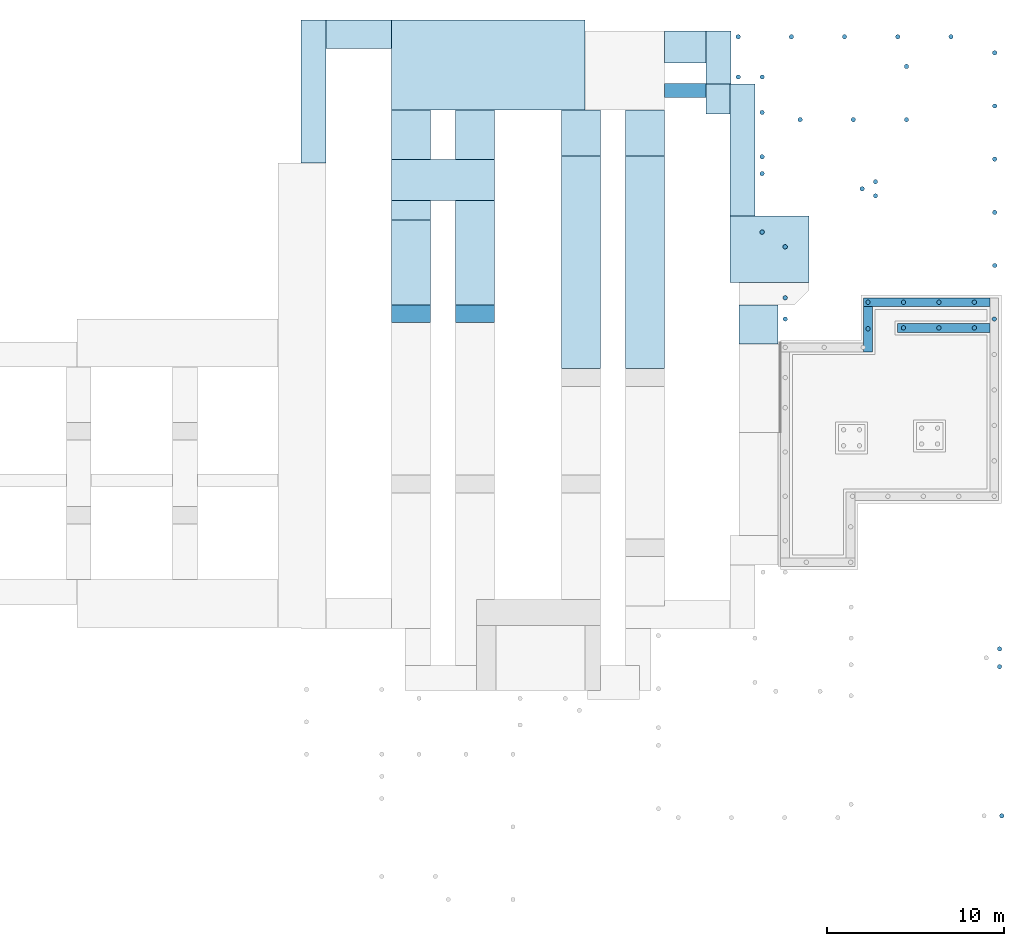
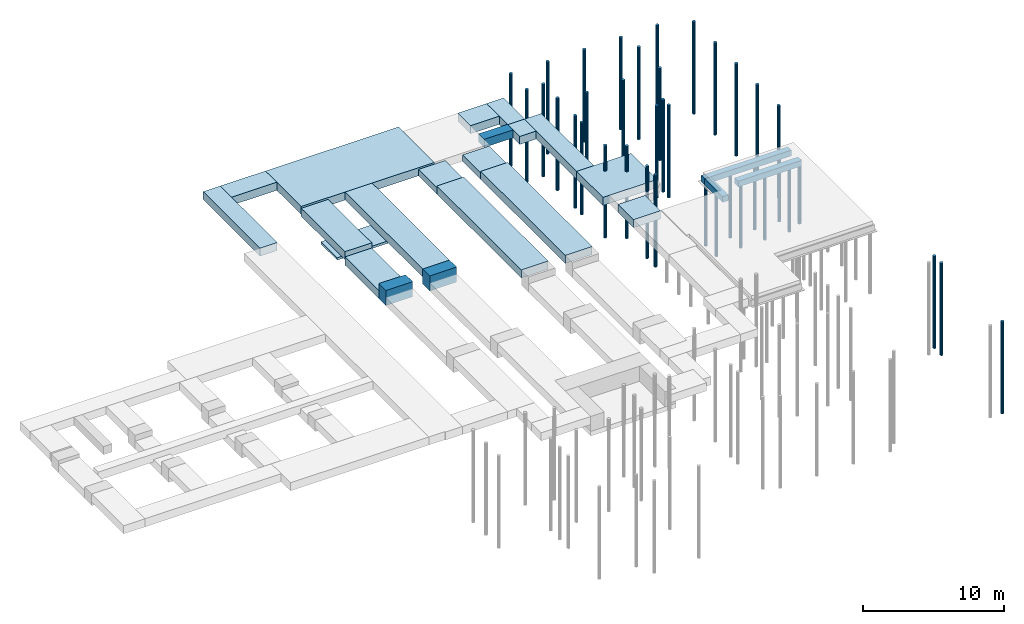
# One storey, part 3 of 4: 61 footings.
"""IFC4 building model written with IfcOpenShell, lengths in metres."""

from ifc_helpers import new_model, entity, si_unit, converted_unit, derived_unit, frame, frame_2d, origin, place, context, subcontext, project, spatial, rectangle, circle, extrude, material, element, save


model = new_model("IFC4")

# Units and contexts
model_context = context("Model", 3, precision=1e-05, world=origin())
body_context = subcontext(model_context, "Body", "Model", "MODEL_VIEW")
ifc_project = project(units=[si_unit("LENGTHUNIT", "METRE"), si_unit("AREAUNIT", "SQUARE_METRE"), si_unit("VOLUMEUNIT", "CUBIC_METRE"), si_unit("MASSUNIT", "GRAM", prefix="KILO"), converted_unit("PLANEANGLEUNIT", "DEGREE", entity("IfcPlaneAngleMeasure", 0.0174532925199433), si_unit("PLANEANGLEUNIT", "RADIAN"), dimensions=[0, 0, 0, 0, 0, 0, 0]), derived_unit("THERMALTRANSMITTANCEUNIT", [(si_unit("POWERUNIT", "WATT"), 1), (si_unit("THERMODYNAMICTEMPERATUREUNIT", "KELVIN"), -1), (si_unit("LENGTHUNIT", "METRE"), -2)]), derived_unit("VOLUMETRICFLOWRATEUNIT", [(si_unit("LENGTHUNIT", "METRE"), 3), (converted_unit("TIMEUNIT", "hour", entity("IfcTimeMeasure", 3600.0), si_unit("TIMEUNIT", "SECOND"), dimensions=[0, 0, 1, 0, 0, 0, 0]), -1), (si_unit("LENGTHUNIT", "METRE"), -1)])], contexts=[model_context])

# Site, building, storey
site_placement = place(None, origin())
site = spatial("IfcSite", under=ifc_project, at=site_placement, Name="3. ASŘ", CompositionType="ELEMENT")
building_placement = place(site_placement, origin())
building = spatial("IfcBuilding", under=site, at=building_placement, Name="Pavilon C", CompositionType="ELEMENT")
storey_placement = place(building_placement, frame((0.0, 0.0, -4.4)))
storey = spatial("IfcBuildingStorey", under=building, at=storey_placement, Name="Základy", CompositionType="ELEMENT", Elevation=-4.4)

# Footings
footing_1_placement = place(storey_placement, frame((48.75, 29.75, 0.0), z_axis=(0.0, 0.0, 1.0), x_axis=(-1.0, 0.0, 0.0)))
element("IfcFooting", 1, at=footing_1_placement, inside=storey, PredefinedType="STRIP_FOOTING", context=body_context, shape_type="SweptSolid", body=[
    extrude(rectangle(XDim=1.695, YDim=0.7, at=frame_2d((0.8475, 0.35), x_axis=(1.0, 0.0))), frame((0.0, 0.0, 0.0), z_axis=(1.0, 0.0, 0.0), x_axis=(0.0, 1.0, 0.0)), (0.0, 0.0, 1.0), 1.35),
])
footing_2_placement = place(storey_placement, frame((48.8, 29.75, 0.0), z_axis=(0.0, 0.0, 1.0), x_axis=(0.0, 1.0, 0.0)))
element("IfcFooting", 2, at=footing_2_placement, inside=storey, PredefinedType="STRIP_FOOTING", context=body_context, shape_type="SweptSolid", body=[
    extrude(rectangle(XDim=1.4, YDim=0.7, at=frame_2d((0.7, 0.35), x_axis=(1.0, 0.0))), frame((0.0, 0.0, 0.0), z_axis=(1.0, 0.0, 0.0), x_axis=(0.0, 1.0, 0.0)), (0.0, 0.0, 1.0), 3.0),
])
footing_3_placement = place(storey_placement, frame((47.4, 29.8, 0.0), z_axis=(0.0, 0.0, 1.0), x_axis=(-1.0, 0.0, 0.0)))
element("IfcFooting", 3, at=footing_3_placement, inside=storey, PredefinedType="STRIP_FOOTING", context=body_context, shape_type="SweptSolid", body=[
    extrude(rectangle(XDim=0.8, YDim=0.7, at=frame_2d((0.4, 0.35), x_axis=(1.0, 0.0))), frame((0.0, 0.0, 0.0), z_axis=(1.0, 0.0, 0.0), x_axis=(0.0, 1.0, 0.0)), (0.0, 0.0, 1.0), 2.35005),
])
footing_4_placement = place(storey_placement, frame((42.85, 25.7, 0.0), z_axis=(0.0, 0.0, 1.0), x_axis=(0.0, -1.0, 0.0)))
element("IfcFooting", 4, at=footing_4_placement, inside=storey, PredefinedType="STRIP_FOOTING", context=body_context, shape_type="SweptSolid", body=[
    extrude(rectangle(XDim=2.2, YDim=0.7, at=frame_2d((1.1, 0.35), x_axis=(1.0, 0.0))), frame((0.0, 0.0, 0.0), z_axis=(1.0, 0.0, 0.0), x_axis=(0.0, 1.0, 0.0)), (0.0, 0.0, 1.0), 12.0),
])
footing_5_placement = place(storey_placement, frame((29.6498372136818, 28.3, -0.15), z_axis=(0.0, 0.0, 1.0), x_axis=(0.0, -1.0, 0.0)))
element("IfcFooting", 5, at=footing_5_placement, inside=storey, PredefinedType="STRIP_FOOTING", context=body_context, shape_type="SweptSolid", body=[
    extrude(rectangle(XDim=2.2, YDim=0.7, at=frame_2d((1.1, 0.35), x_axis=(1.0, 0.0))), frame((0.0, 0.0, 0.0), z_axis=(1.0, 0.0, 0.0), x_axis=(0.0, 1.0, 0.0)), (0.0, 0.0, 1.0), 6.2),
])
footing_6_placement = place(storey_placement, frame((39.25, 25.7, 0.0), z_axis=(0.0, 0.0, 1.0), x_axis=(0.0, -1.0, 0.0)))
element("IfcFooting", 6, at=footing_6_placement, inside=storey, PredefinedType="STRIP_FOOTING", context=body_context, shape_type="SweptSolid", body=[
    extrude(rectangle(XDim=2.2, YDim=0.7, at=frame_2d((1.1, 0.35), x_axis=(1.0, 0.0))), frame((0.0, 0.0, 0.0), z_axis=(1.0, 0.0, 0.0), x_axis=(0.0, 1.0, 0.0)), (0.0, 0.0, 1.0), 12.0),
])
for number, where, z_axis, x_axis in (
    (7, (39.25, 28.3, 0.0), (0.0, 0.0, 1.0), (0.0, -1.0, 0.0)),
    (8, (42.85, 28.3, 0.0), (0.0, 0.0, 1.0), (0.0, -1.0, 0.0)),
):
    element("IfcFooting", number, at=place(storey_placement, frame(where, z_axis=z_axis, x_axis=x_axis)), inside=storey, PredefinedType="STRIP_FOOTING", context=body_context, shape_type="SweptSolid", body=[
        extrude(rectangle(XDim=2.2, YDim=0.55, at=frame_2d((1.1, 0.275), x_axis=(1.0, 0.0))), frame((0.0, 0.0, 0.0), z_axis=(1.0, 0.0, 0.0), x_axis=(0.0, 1.0, 0.0)), (0.0, 0.0, 1.0), 2.59999999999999),
    ])
footing_7_placement = place(storey_placement, frame((47.4, 32.75, 0.0), z_axis=(0.0, 0.0, 1.0), x_axis=(-1.0, 0.0, 0.0)))
element("IfcFooting", 9, at=footing_7_placement, inside=storey, PredefinedType="STRIP_FOOTING", context=body_context, shape_type="SweptSolid", body=[
    extrude(rectangle(XDim=1.8, YDim=0.7, at=frame_2d((0.9, 0.35), x_axis=(1.0, 0.0))), frame((0.0, 0.0, 0.0), z_axis=(1.0, 0.0, 0.0), x_axis=(0.0, 1.0, 0.0)), (0.0, 0.0, 1.0), 2.35),
])
footing_8_placement = place(storey_placement, frame((40.55, 33.37, 0.0), z_axis=(0.0, 0.0, 1.0), x_axis=(-1.0, 6.67509078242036e-16, 0.0)))
element("IfcFooting", 10, at=footing_8_placement, inside=storey, PredefinedType="STRIP_FOOTING", context=body_context, shape_type="SweptSolid", body=[
    extrude(rectangle(XDim=5.07, YDim=0.7, at=frame_2d((2.535, 0.35), x_axis=(1.0, 0.0))), frame((0.0, 0.0, 0.0), z_axis=(1.0, 0.0, 0.0), x_axis=(0.0, 1.0, 0.0)), (0.0, 0.0, 1.0), 10.9001627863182),
])
footing_9_placement = place(storey_placement, frame((53.195, 18.57, 0.0), z_axis=(0.0, 0.0, 1.0), x_axis=(0.0, 1.0, 0.0)))
element("IfcFooting", 11, at=footing_9_placement, inside=storey, PredefinedType="STRIP_FOOTING", context=body_context, shape_type="SweptSolid", body=[
    extrude(rectangle(XDim=4.445, YDim=0.7, at=frame_2d((2.2225, 0.35), x_axis=(1.0, 0.0))), frame((0.0, 0.0, 0.0), z_axis=(1.0, 0.0, 0.0), x_axis=(0.0, 1.0, 0.0)), (0.0, 0.0, 1.0), 3.73),
])
footing_10_placement = place(storey_placement, frame((50.15, 22.3, 0.0), z_axis=(0.0, 0.0, 1.0), x_axis=(0.0, 1.0, 0.0)))
element("IfcFooting", 12, at=footing_10_placement, inside=storey, PredefinedType="STRIP_FOOTING", context=body_context, shape_type="SweptSolid", body=[
    extrude(rectangle(XDim=1.4, YDim=0.7, at=frame_2d((0.7, 0.35), x_axis=(1.0, 0.0))), frame((0.0, 0.0, 0.0), z_axis=(1.0, 0.0, 0.0), x_axis=(0.0, 1.0, 0.0)), (0.0, 0.0, 1.0), 7.45),
])
footing_11_placement = place(storey_placement, frame((31.8498372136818, 17.3, -0.6), z_axis=(0.0, 0.0, 1.0), x_axis=(0.0, 1.0, 0.0)))
element("IfcFooting", 13, at=footing_11_placement, inside=storey, PredefinedType="STRIP_FOOTING", context=body_context, shape_type="SweptSolid", body=[
    extrude(rectangle(XDim=2.2, YDim=0.7, at=frame_2d((1.1, 0.35), x_axis=(1.0, 0.0))), frame((0.0, 0.0, 0.0), z_axis=(1.0, 0.0, 0.0), x_axis=(0.0, 1.0, 0.0)), (0.0, 0.0, 1.0), 4.8),
])
footing_12_placement = place(storey_placement, frame((35.4498372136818, 17.3, 0.0), z_axis=(0.0, 0.0, 1.0), x_axis=(0.0, 1.0, 0.0)))
element("IfcFooting", 14, at=footing_12_placement, inside=storey, PredefinedType="STRIP_FOOTING", context=body_context, shape_type="SweptSolid", body=[
    extrude(rectangle(XDim=2.2, YDim=0.7, at=frame_2d((1.1, 0.35), x_axis=(1.0, 0.0))), frame((0.0, 0.0, 0.0), z_axis=(1.0, 0.0, 0.0), x_axis=(0.0, 1.0, 0.0)), (0.0, 0.0, 1.0), 11.0),
])
footing_13_placement = place(storey_placement, frame((35.4498372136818, 16.3, -0.6), z_axis=(0.0, 0.0, 1.0), x_axis=(0.0, 1.0, 0.0)))
element("IfcFooting", 15, at=footing_13_placement, inside=storey, PredefinedType="STRIP_FOOTING", context=body_context, shape_type="SweptSolid", body=[
    extrude(rectangle(XDim=2.19999998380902, YDim=1.3, at=frame_2d((1.09999999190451, 0.65), x_axis=(1.0, 0.0))), frame((0.0, 0.0, 0.0), z_axis=(1.0, 0.0, 0.0), x_axis=(0.0, 1.0, 0.0)), (0.0, 0.0, 1.0), 1.0),
])
footing_14_placement = place(storey_placement, frame((35.4498372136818, 25.5, -0.85), z_axis=(0.0, 0.0, 1.0), x_axis=(-1.0, 0.0, 0.0)))
element("IfcFooting", 16, at=footing_14_placement, inside=storey, PredefinedType="STRIP_FOOTING", context=body_context, shape_type="SweptSolid", body=[
    extrude(rectangle(XDim=2.3, YDim=0.2, at=frame_2d((1.15, 0.1), x_axis=(1.0, 0.0))), frame((0.0, 0.0, 0.0), z_axis=(1.0, 0.0, 0.0), x_axis=(0.0, 1.0, 0.0)), (0.0, 0.0, 1.0), 5.80000000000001),
])
footing_15_placement = place(storey_placement, frame((29.6498372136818, 33.37, 0.0), z_axis=(0.0, 0.0, 1.0), x_axis=(-1.0, 0.0, 0.0)))
element("IfcFooting", 17, at=footing_15_placement, inside=storey, PredefinedType="STRIP_FOOTING", context=body_context, shape_type="SweptSolid", body=[
    extrude(rectangle(XDim=1.6, YDim=0.7, at=frame_2d((0.8, 0.35), x_axis=(1.0, 0.0))), frame((0.0, 0.0, 0.0), z_axis=(1.0, 0.0, 0.0), x_axis=(0.0, 1.0, 0.0)), (0.0, 0.0, 1.0), 3.69983721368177),
])
footing_16_placement = place(storey_placement, frame((24.55, 33.37, 0.0), z_axis=(0.0, 0.0, 1.0), x_axis=(-4.50802826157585e-16, -1.0, 0.0)))
element("IfcFooting", 18, at=footing_16_placement, inside=storey, PredefinedType="STRIP_FOOTING", context=body_context, shape_type="SweptSolid", body=[
    extrude(rectangle(XDim=1.4, YDim=0.7, at=frame_2d((0.7, 0.35), x_axis=(1.0, 0.0))), frame((0.0, 0.0, 0.0), z_axis=(1.0, 0.0, 0.0), x_axis=(0.0, 1.0, 0.0)), (0.0, 0.0, 1.0), 8.07),
])
footing_17_placement = place(storey_placement, frame((31.8498372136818, 16.3, -0.6), z_axis=(0.0, 0.0, 1.0), x_axis=(0.0, 1.0, 0.0)))
element("IfcFooting", 19, at=footing_17_placement, inside=storey, PredefinedType="STRIP_FOOTING", context=body_context, shape_type="SweptSolid", body=[
    extrude(rectangle(XDim=2.19999998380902, YDim=1.3, at=frame_2d((1.09999999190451, 0.65), x_axis=(1.0, 0.0))), frame((0.0, 0.0, 0.0), z_axis=(1.0, 0.0, 0.0), x_axis=(0.0, 1.0, 0.0)), (0.0, 0.0, 1.0), 1.0),
])
footing_18_placement = place(storey_placement, frame((51.45, 15.1, 0.0), z_axis=(0.0, 0.0, 1.0), x_axis=(0.0, 1.0, 0.0)))
element("IfcFooting", 20, at=footing_18_placement, inside=storey, PredefinedType="STRIP_FOOTING", context=body_context, shape_type="SweptSolid", body=[
    extrude(rectangle(XDim=2.2, YDim=0.7, at=frame_2d((1.1, 0.35), x_axis=(1.0, 0.0))), frame((0.0, 0.0, 0.0), z_axis=(1.0, 0.0, 0.0), x_axis=(0.0, 1.0, 0.0)), (0.0, 0.0, 1.0), 2.2),
])
ifc_material_1 = material(Name="ZELEZOBETONOVÁ KCE")
footing_19_placement = place(storey_placement, frame((63.4, 17.7, 0.0), z_axis=(0.0, 0.0, 1.0), x_axis=(-1.0, 0.0, 0.0)))
element("IfcFooting", 21, at=footing_19_placement, inside=storey, material=ifc_material_1, PredefinedType="STRIP_FOOTING", context=body_context, shape_type="SweptSolid", body=[
    extrude(rectangle(XDim=0.5, YDim=0.5, at=frame_2d((0.25, 0.25), x_axis=(1.0, 0.0))), frame((0.0, 0.0, 0.0), z_axis=(1.0, 0.0, 0.0), x_axis=(0.0, 1.0, 0.0)), (0.0, 0.0, 1.0), 7.12111169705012),
])
ifc_material_2 = material(Name="ZELEZOBETONOVÁ KCE")
footing_20_placement = place(storey_placement, frame((56.2788883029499, 17.2, 0.0), z_axis=(0.0, 0.0, 1.0), x_axis=(0.0, -1.0, 0.0)))
element("IfcFooting", 22, at=footing_20_placement, inside=storey, material=ifc_material_2, PredefinedType="STRIP_FOOTING", context=body_context, shape_type="SweptSolid", body=[
    extrude(rectangle(XDim=0.5, YDim=0.5, at=frame_2d((0.25, 0.25), x_axis=(1.0, 0.0))), frame((0.0, 0.0, 0.0), z_axis=(1.0, 0.0, 0.0), x_axis=(0.0, 1.0, 0.0)), (0.0, 0.0, 1.0), 2.54999999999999),
])
ifc_material_3 = material(Name="ZELEZOBETONOVÁ KCE")
footing_21_placement = place(storey_placement, frame((63.4, 16.25, 0.0), z_axis=(0.0, 0.0, 1.0), x_axis=(-1.0, 0.0, 0.0)))
element("IfcFooting", 23, at=footing_21_placement, inside=storey, material=ifc_material_3, PredefinedType="STRIP_FOOTING", context=body_context, shape_type="SweptSolid", body=[
    extrude(rectangle(XDim=0.5, YDim=0.5, at=frame_2d((0.25, 0.25), x_axis=(1.0, 0.0))), frame((0.0, 0.0, 0.0), z_axis=(1.0, 0.0, 0.0), x_axis=(0.0, 1.0, 0.0)), (0.0, 0.0, 1.0), 5.2),
])
ifc_material_4 = material(Name="ZELEZOBETONOVÁ KCE")
footing_22_placement = place(storey_placement, frame((63.5255159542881, 16.3755159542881, -5.5)))
element("IfcFooting", 24, at=footing_22_placement, inside=storey, material=ifc_material_4, Name="MIKROPILOTA MP2", PredefinedType="PAD_FOOTING", context=body_context, shape_type="SweptSolid", body=[
    extrude(circle(Radius=0.124999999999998, at=frame_2d((0.124999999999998, 0.124999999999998), x_axis=(1.0, 0.0))), frame((-0.000515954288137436, -0.000515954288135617, 0.0), z_axis=(0.0, 0.0, 1.0), x_axis=(1.0, 0.0, 0.0)), (0.0, 0.0, 1.0), 5.5),
])
ifc_material_5 = material(Name="ZELEZOBETONOVÁ KCE")
footing_23_placement = place(storey_placement, frame((62.404404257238, 17.3255159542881, -5.5)))
element("IfcFooting", 25, at=footing_23_placement, inside=storey, material=ifc_material_5, Name="MIKROPILOTA MP2", PredefinedType="PAD_FOOTING", context=body_context, shape_type="SweptSolid", body=[
    extrude(circle(Radius=0.124999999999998, at=frame_2d((0.124999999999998, 0.124999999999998), x_axis=(1.0, 0.0))), frame((-0.000515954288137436, -0.000515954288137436, 0.0), z_axis=(0.0, 0.0, 1.0), x_axis=(1.0, 0.0, 0.0)), (0.0, 0.0, 1.0), 5.5),
])
ifc_material_6 = material(Name="ZELEZOBETONOVÁ KCE")
footing_24_placement = place(storey_placement, frame((62.404404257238, 15.8755159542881, -5.5)))
element("IfcFooting", 26, at=footing_24_placement, inside=storey, material=ifc_material_6, Name="MIKROPILOTA MP2", PredefinedType="PAD_FOOTING", context=body_context, shape_type="SweptSolid", body=[
    extrude(circle(Radius=0.124999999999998, at=frame_2d((0.124999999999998, 0.124999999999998), x_axis=(1.0, 0.0))), frame((-0.000515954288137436, -0.000515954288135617, 0.0), z_axis=(0.0, 0.0, 1.0), x_axis=(1.0, 0.0, 0.0)), (0.0, 0.0, 1.0), 5.5),
])
ifc_material_7 = material(Name="ZELEZOBETONOVÁ KCE")
footing_25_placement = place(storey_placement, frame((60.404404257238, 15.8755159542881, -5.5)))
element("IfcFooting", 27, at=footing_25_placement, inside=storey, material=ifc_material_7, Name="MIKROPILOTA MP2", PredefinedType="PAD_FOOTING", context=body_context, shape_type="SweptSolid", body=[
    extrude(circle(Radius=0.124999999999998, at=frame_2d((0.124999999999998, 0.124999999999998), x_axis=(1.0, 0.0))), frame((-0.000515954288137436, -0.000515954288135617, 0.0), z_axis=(0.0, 0.0, 1.0), x_axis=(1.0, 0.0, 0.0)), (0.0, 0.0, 1.0), 5.5),
])
ifc_material_8 = material(Name="ZELEZOBETONOVÁ KCE")
footing_26_placement = place(storey_placement, frame((60.404404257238, 17.3255159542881, -5.5)))
element("IfcFooting", 28, at=footing_26_placement, inside=storey, material=ifc_material_8, Name="MIKROPILOTA MP2", PredefinedType="PAD_FOOTING", context=body_context, shape_type="SweptSolid", body=[
    extrude(circle(Radius=0.124999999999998, at=frame_2d((0.124999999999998, 0.124999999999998), x_axis=(1.0, 0.0))), frame((-0.000515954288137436, -0.000515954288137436, 0.0), z_axis=(0.0, 0.0, 1.0), x_axis=(1.0, 0.0, 0.0)), (0.0, 0.0, 1.0), 5.5),
])
ifc_material_9 = material(Name="ZELEZOBETONOVÁ KCE")
footing_27_placement = place(storey_placement, frame((58.404404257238, 15.8755159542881, -5.5)))
element("IfcFooting", 29, at=footing_27_placement, inside=storey, material=ifc_material_9, Name="MIKROPILOTA MP2", PredefinedType="PAD_FOOTING", context=body_context, shape_type="SweptSolid", body=[
    extrude(circle(Radius=0.124999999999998, at=frame_2d((0.124999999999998, 0.124999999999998), x_axis=(1.0, 0.0))), frame((-0.000515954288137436, -0.000515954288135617, 0.0), z_axis=(0.0, 0.0, 1.0), x_axis=(1.0, 0.0, 0.0)), (0.0, 0.0, 1.0), 5.5),
])
ifc_material_10 = material(Name="ZELEZOBETONOVÁ KCE")
footing_28_placement = place(storey_placement, frame((58.404404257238, 17.3255159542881, -5.5)))
element("IfcFooting", 30, at=footing_28_placement, inside=storey, material=ifc_material_10, Name="MIKROPILOTA MP2", PredefinedType="PAD_FOOTING", context=body_context, shape_type="SweptSolid", body=[
    extrude(circle(Radius=0.124999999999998, at=frame_2d((0.124999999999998, 0.124999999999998), x_axis=(1.0, 0.0))), frame((-0.000515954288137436, -0.000515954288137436, 0.0), z_axis=(0.0, 0.0, 1.0), x_axis=(1.0, 0.0, 0.0)), (0.0, 0.0, 1.0), 5.5),
])
ifc_material_11 = material(Name="ZELEZOBETONOVÁ KCE")
footing_29_placement = place(storey_placement, frame((56.404404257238, 15.8255159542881, -5.5)))
element("IfcFooting", 31, at=footing_29_placement, inside=storey, material=ifc_material_11, Name="MIKROPILOTA MP2", PredefinedType="PAD_FOOTING", context=body_context, shape_type="SweptSolid", body=[
    extrude(circle(Radius=0.124999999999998, at=frame_2d((0.124999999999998, 0.124999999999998), x_axis=(1.0, 0.0))), frame((-0.000515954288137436, -0.000515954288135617, 0.0), z_axis=(0.0, 0.0, 1.0), x_axis=(1.0, 0.0, 0.0)), (0.0, 0.0, 1.0), 5.5),
])
ifc_material_12 = material(Name="ZELEZOBETONOVÁ KCE")
footing_30_placement = place(storey_placement, frame((56.404404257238, 17.3255159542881, -5.5)))
element("IfcFooting", 32, at=footing_30_placement, inside=storey, material=ifc_material_12, Name="MIKROPILOTA MP2", PredefinedType="PAD_FOOTING", context=body_context, shape_type="SweptSolid", body=[
    extrude(circle(Radius=0.124999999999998, at=frame_2d((0.124999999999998, 0.124999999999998), x_axis=(1.0, 0.0))), frame((-0.000515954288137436, -0.000515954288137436, 0.0), z_axis=(0.0, 0.0, 1.0), x_axis=(1.0, 0.0, 0.0)), (0.0, 0.0, 1.0), 5.5),
])
ifc_material_13 = material(Name="ZELEZOBETONOVÁ KCE")
footing_31_placement = place(storey_placement, frame((49.0805159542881, 32.3005159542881, -5.1)))
element("IfcFooting", 33, at=footing_31_placement, inside=storey, material=ifc_material_13, Name="MIKROPILOTA MP1", PredefinedType="PAD_FOOTING", context=body_context, shape_type="SweptSolid", body=[
    extrude(circle(Radius=0.124999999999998, at=frame_2d((0.124999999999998, 0.124999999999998), x_axis=(1.0, 0.0))), frame((-0.000515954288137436, -0.000515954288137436, 0.0), z_axis=(0.0, 0.0, 1.0), x_axis=(1.0, 0.0, 0.0)), (0.0, 0.0, 1.0), 8.0),
])
ifc_material_14 = material(Name="ZELEZOBETONOVÁ KCE")
footing_32_placement = place(storey_placement, frame((52.0805159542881, 32.3005159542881, -5.1)))
element("IfcFooting", 34, at=footing_32_placement, inside=storey, material=ifc_material_14, Name="MIKROPILOTA MP1", PredefinedType="PAD_FOOTING", context=body_context, shape_type="SweptSolid", body=[
    extrude(circle(Radius=0.124999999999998, at=frame_2d((0.124999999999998, 0.124999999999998), x_axis=(1.0, 0.0))), frame((-0.000515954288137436, -0.000515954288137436, 0.0), z_axis=(0.0, 0.0, 1.0), x_axis=(1.0, 0.0, 0.0)), (0.0, 0.0, 1.0), 8.0),
])
ifc_material_15 = material(Name="ZELEZOBETONOVÁ KCE")
footing_33_placement = place(storey_placement, frame((55.0805159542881, 32.3005159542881, -5.1)))
element("IfcFooting", 35, at=footing_33_placement, inside=storey, material=ifc_material_15, Name="MIKROPILOTA MP1", PredefinedType="PAD_FOOTING", context=body_context, shape_type="SweptSolid", body=[
    extrude(circle(Radius=0.124999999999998, at=frame_2d((0.124999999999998, 0.124999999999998), x_axis=(1.0, 0.0))), frame((-0.000515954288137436, -0.000515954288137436, 0.0), z_axis=(0.0, 0.0, 1.0), x_axis=(1.0, 0.0, 0.0)), (0.0, 0.0, 1.0), 8.0),
])
ifc_material_16 = material(Name="ZELEZOBETONOVÁ KCE")
footing_34_placement = place(storey_placement, frame((61.0805159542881, 32.3005159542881, -5.1)))
element("IfcFooting", 36, at=footing_34_placement, inside=storey, material=ifc_material_16, Name="MIKROPILOTA MP1", PredefinedType="PAD_FOOTING", context=body_context, shape_type="SweptSolid", body=[
    extrude(circle(Radius=0.124999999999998, at=frame_2d((0.124999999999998, 0.124999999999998), x_axis=(1.0, 0.0))), frame((-0.000515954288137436, -0.000515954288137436, 0.0), z_axis=(0.0, 0.0, 1.0), x_axis=(1.0, 0.0, 0.0)), (0.0, 0.0, 1.0), 8.0),
])
ifc_material_17 = material(Name="ZELEZOBETONOVÁ KCE")
footing_35_placement = place(storey_placement, frame((58.0805159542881, 32.3005159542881, -5.1)))
element("IfcFooting", 37, at=footing_35_placement, inside=storey, material=ifc_material_17, Name="MIKROPILOTA MP1", PredefinedType="PAD_FOOTING", context=body_context, shape_type="SweptSolid", body=[
    extrude(circle(Radius=0.124999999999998, at=frame_2d((0.124999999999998, 0.124999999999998), x_axis=(1.0, 0.0))), frame((-0.000515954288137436, -0.000515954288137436, 0.0), z_axis=(0.0, 0.0, 1.0), x_axis=(1.0, 0.0, 0.0)), (0.0, 0.0, 1.0), 8.0),
])
ifc_material_18 = material(Name="ZELEZOBETONOVÁ KCE")
footing_36_placement = place(storey_placement, frame((49.0805159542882, 30.0305159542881, -5.1)))
element("IfcFooting", 38, at=footing_36_placement, inside=storey, material=ifc_material_18, Name="MIKROPILOTA MP1", PredefinedType="PAD_FOOTING", context=body_context, shape_type="SweptSolid", body=[
    extrude(circle(Radius=0.124999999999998, at=frame_2d((0.124999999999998, 0.124999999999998), x_axis=(1.0, 0.0))), frame((-0.000515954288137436, -0.000515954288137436, 0.0), z_axis=(0.0, 0.0, 1.0), x_axis=(1.0, 0.0, 0.0)), (0.0, 0.0, 1.0), 8.0),
])
ifc_material_19 = material(Name="ZELEZOBETONOVÁ KCE")
footing_37_placement = place(storey_placement, frame((50.4305159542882, 30.0305159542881, -5.1)))
element("IfcFooting", 39, at=footing_37_placement, inside=storey, material=ifc_material_19, Name="MIKROPILOTA MP1", PredefinedType="PAD_FOOTING", context=body_context, shape_type="SweptSolid", body=[
    extrude(circle(Radius=0.124999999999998, at=frame_2d((0.124999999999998, 0.124999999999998), x_axis=(1.0, 0.0))), frame((-0.000515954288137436, -0.000515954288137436, 0.0), z_axis=(0.0, 0.0, 1.0), x_axis=(1.0, 0.0, 0.0)), (0.0, 0.0, 1.0), 8.0),
])
ifc_material_20 = material(Name="ZELEZOBETONOVÁ KCE")
footing_38_placement = place(storey_placement, frame((50.4305159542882, 28.0305159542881, -5.1)))
element("IfcFooting", 40, at=footing_38_placement, inside=storey, material=ifc_material_20, Name="MIKROPILOTA MP1", PredefinedType="PAD_FOOTING", context=body_context, shape_type="SweptSolid", body=[
    extrude(circle(Radius=0.124999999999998, at=frame_2d((0.124999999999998, 0.124999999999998), x_axis=(1.0, 0.0))), frame((-0.000515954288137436, -0.000515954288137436, 0.0), z_axis=(0.0, 0.0, 1.0), x_axis=(1.0, 0.0, 0.0)), (0.0, 0.0, 1.0), 8.0),
])
ifc_material_21 = material(Name="ZELEZOBETONOVÁ KCE")
footing_39_placement = place(storey_placement, frame((52.5755159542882, 27.6255159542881, -5.1)))
element("IfcFooting", 41, at=footing_39_placement, inside=storey, material=ifc_material_21, Name="MIKROPILOTA MP1", PredefinedType="PAD_FOOTING", context=body_context, shape_type="SweptSolid", body=[
    extrude(circle(Radius=0.124999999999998, at=frame_2d((0.124999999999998, 0.124999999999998), x_axis=(1.0, 0.0))), frame((-0.000515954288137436, -0.000515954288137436, 0.0), z_axis=(0.0, 0.0, 1.0), x_axis=(1.0, 0.0, 0.0)), (0.0, 0.0, 1.0), 8.0),
])
ifc_material_22 = material(Name="ZELEZOBETONOVÁ KCE")
footing_40_placement = place(storey_placement, frame((55.5755159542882, 27.6255159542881, -5.1)))
element("IfcFooting", 42, at=footing_40_placement, inside=storey, material=ifc_material_22, Name="MIKROPILOTA MP1", PredefinedType="PAD_FOOTING", context=body_context, shape_type="SweptSolid", body=[
    extrude(circle(Radius=0.124999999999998, at=frame_2d((0.124999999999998, 0.124999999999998), x_axis=(1.0, 0.0))), frame((-0.000515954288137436, -0.000515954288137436, 0.0), z_axis=(0.0, 0.0, 1.0), x_axis=(1.0, 0.0, 0.0)), (0.0, 0.0, 1.0), 8.0),
])
ifc_material_23 = material(Name="ZELEZOBETONOVÁ KCE")
footing_41_placement = place(storey_placement, frame((58.5755159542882, 27.6255159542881, -5.1)))
element("IfcFooting", 43, at=footing_41_placement, inside=storey, material=ifc_material_23, Name="MIKROPILOTA MP1", PredefinedType="PAD_FOOTING", context=body_context, shape_type="SweptSolid", body=[
    extrude(circle(Radius=0.124999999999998, at=frame_2d((0.124999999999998, 0.124999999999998), x_axis=(1.0, 0.0))), frame((-0.000515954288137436, -0.000515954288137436, 0.0), z_axis=(0.0, 0.0, 1.0), x_axis=(1.0, 0.0, 0.0)), (0.0, 0.0, 1.0), 8.0),
])
ifc_material_24 = material(Name="ZELEZOBETONOVÁ KCE")
footing_42_placement = place(storey_placement, frame((58.5755159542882, 30.6255159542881, -5.1)))
element("IfcFooting", 44, at=footing_42_placement, inside=storey, material=ifc_material_24, Name="MIKROPILOTA MP1", PredefinedType="PAD_FOOTING", context=body_context, shape_type="SweptSolid", body=[
    extrude(circle(Radius=0.124999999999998, at=frame_2d((0.124999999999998, 0.124999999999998), x_axis=(1.0, 0.0))), frame((-0.000515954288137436, -0.000515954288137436, 0.0), z_axis=(0.0, 0.0, 1.0), x_axis=(1.0, 0.0, 0.0)), (0.0, 0.0, 1.0), 8.0),
])
ifc_material_25 = material(Name="ZELEZOBETONOVÁ KCE")
footing_43_placement = place(storey_placement, frame((63.5505159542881, 31.3955159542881, -5.1)))
element("IfcFooting", 45, at=footing_43_placement, inside=storey, material=ifc_material_25, Name="MIKROPILOTA MP1", PredefinedType="PAD_FOOTING", context=body_context, shape_type="SweptSolid", body=[
    extrude(circle(Radius=0.124999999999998, at=frame_2d((0.124999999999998, 0.124999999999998), x_axis=(1.0, 0.0))), frame((-0.000515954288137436, -0.000515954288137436, 0.0), z_axis=(0.0, 0.0, 1.0), x_axis=(1.0, 0.0, 0.0)), (0.0, 0.0, 1.0), 8.0),
])
ifc_material_26 = material(Name="ZELEZOBETONOVÁ KCE")
footing_44_placement = place(storey_placement, frame((63.5505159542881, 28.3955159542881, -5.1)))
element("IfcFooting", 46, at=footing_44_placement, inside=storey, material=ifc_material_26, Name="MIKROPILOTA MP1", PredefinedType="PAD_FOOTING", context=body_context, shape_type="SweptSolid", body=[
    extrude(circle(Radius=0.124999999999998, at=frame_2d((0.124999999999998, 0.124999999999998), x_axis=(1.0, 0.0))), frame((-0.000515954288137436, -0.000515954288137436, 0.0), z_axis=(0.0, 0.0, 1.0), x_axis=(1.0, 0.0, 0.0)), (0.0, 0.0, 1.0), 8.0),
])
ifc_material_27 = material(Name="ZELEZOBETONOVÁ KCE")
footing_45_placement = place(storey_placement, frame((63.5505159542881, 25.3955159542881, -5.1)))
element("IfcFooting", 47, at=footing_45_placement, inside=storey, material=ifc_material_27, Name="MIKROPILOTA MP1", PredefinedType="PAD_FOOTING", context=body_context, shape_type="SweptSolid", body=[
    extrude(circle(Radius=0.124999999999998, at=frame_2d((0.124999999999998, 0.124999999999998), x_axis=(1.0, 0.0))), frame((-0.000515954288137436, -0.000515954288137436, 0.0), z_axis=(0.0, 0.0, 1.0), x_axis=(1.0, 0.0, 0.0)), (0.0, 0.0, 1.0), 8.0),
])
ifc_material_28 = material(Name="ZELEZOBETONOVÁ KCE")
footing_46_placement = place(storey_placement, frame((63.5505159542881, 22.3955159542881, -5.1)))
element("IfcFooting", 48, at=footing_46_placement, inside=storey, material=ifc_material_28, Name="MIKROPILOTA MP1", PredefinedType="PAD_FOOTING", context=body_context, shape_type="SweptSolid", body=[
    extrude(circle(Radius=0.124999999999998, at=frame_2d((0.124999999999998, 0.124999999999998), x_axis=(1.0, 0.0))), frame((-0.000515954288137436, -0.000515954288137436, 0.0), z_axis=(0.0, 0.0, 1.0), x_axis=(1.0, 0.0, 0.0)), (0.0, 0.0, 1.0), 8.0),
])
ifc_material_29 = material(Name="ZELEZOBETONOVÁ KCE")
footing_47_placement = place(storey_placement, frame((63.5505159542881, 19.3955159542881, -5.1)))
element("IfcFooting", 49, at=footing_47_placement, inside=storey, material=ifc_material_29, Name="MIKROPILOTA MP1", PredefinedType="PAD_FOOTING", context=body_context, shape_type="SweptSolid", body=[
    extrude(circle(Radius=0.124999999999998, at=frame_2d((0.124999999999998, 0.124999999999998), x_axis=(1.0, 0.0))), frame((-0.000515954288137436, -0.000515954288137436, 0.0), z_axis=(0.0, 0.0, 1.0), x_axis=(1.0, 0.0, 0.0)), (0.0, 0.0, 1.0), 8.0),
])
ifc_material_30 = material(Name="ZELEZOBETONOVÁ KCE")
footing_48_placement = place(storey_placement, frame((50.4305159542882, 25.5305159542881, -5.1)))
element("IfcFooting", 50, at=footing_48_placement, inside=storey, material=ifc_material_30, Name="MIKROPILOTA MP1", PredefinedType="PAD_FOOTING", context=body_context, shape_type="SweptSolid", body=[
    extrude(circle(Radius=0.124999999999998, at=frame_2d((0.124999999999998, 0.124999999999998), x_axis=(1.0, 0.0))), frame((-0.000515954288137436, -0.000515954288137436, 0.0), z_axis=(0.0, 0.0, 1.0), x_axis=(1.0, 0.0, 0.0)), (0.0, 0.0, 1.0), 8.0),
])
ifc_material_31 = material(Name="ZELEZOBETONOVÁ KCE")
footing_49_placement = place(storey_placement, frame((50.4305159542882, 24.5805159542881, -5.1)))
element("IfcFooting", 51, at=footing_49_placement, inside=storey, material=ifc_material_31, Name="MIKROPILOTA MP1", PredefinedType="PAD_FOOTING", context=body_context, shape_type="SweptSolid", body=[
    extrude(circle(Radius=0.124999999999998, at=frame_2d((0.124999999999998, 0.124999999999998), x_axis=(1.0, 0.0))), frame((-0.000515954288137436, -0.000515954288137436, 0.0), z_axis=(0.0, 0.0, 1.0), x_axis=(1.0, 0.0, 0.0)), (0.0, 0.0, 1.0), 8.0),
])
ifc_material_32 = material(Name="ZELEZOBETONOVÁ KCE")
footing_50_placement = place(storey_placement, frame((56.0755159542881, 23.7255159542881, -5.1)))
element("IfcFooting", 52, at=footing_50_placement, inside=storey, material=ifc_material_32, Name="MIKROPILOTA MP1", PredefinedType="PAD_FOOTING", context=body_context, shape_type="SweptSolid", body=[
    extrude(circle(Radius=0.124999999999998, at=frame_2d((0.124999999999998, 0.124999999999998), x_axis=(1.0, 0.0))), frame((-0.000515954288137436, -0.000515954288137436, 0.0), z_axis=(0.0, 0.0, 1.0), x_axis=(1.0, 0.0, 0.0)), (0.0, 0.0, 1.0), 8.0),
])
ifc_material_33 = material(Name="ZELEZOBETONOVÁ KCE")
footing_51_placement = place(storey_placement, frame((56.8255159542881, 24.1255159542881, -5.1)))
element("IfcFooting", 53, at=footing_51_placement, inside=storey, material=ifc_material_33, Name="MIKROPILOTA MP1", PredefinedType="PAD_FOOTING", context=body_context, shape_type="SweptSolid", body=[
    extrude(circle(Radius=0.124999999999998, at=frame_2d((0.124999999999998, 0.124999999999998), x_axis=(1.0, 0.0))), frame((-0.000515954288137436, -0.000515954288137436, 0.0), z_axis=(0.0, 0.0, 1.0), x_axis=(1.0, 0.0, 0.0)), (0.0, 0.0, 1.0), 8.0),
])
ifc_material_34 = material(Name="ZELEZOBETONOVÁ KCE")
footing_52_placement = place(storey_placement, frame((56.8255159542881, 23.3255159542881, -5.1)))
element("IfcFooting", 54, at=footing_52_placement, inside=storey, material=ifc_material_34, Name="MIKROPILOTA MP1", PredefinedType="PAD_FOOTING", context=body_context, shape_type="SweptSolid", body=[
    extrude(circle(Radius=0.124999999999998, at=frame_2d((0.124999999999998, 0.124999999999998), x_axis=(1.0, 0.0))), frame((-0.000515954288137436, -0.000515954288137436, 0.0), z_axis=(0.0, 0.0, 1.0), x_axis=(1.0, 0.0, 0.0)), (0.0, 0.0, 1.0), 8.0),
])
ifc_material_35 = material(Name="ZELEZOBETONOVÁ KCE")
footing_53_placement = place(storey_placement, frame((50.4305159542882, 21.2805159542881, -5.1)))
element("IfcFooting", 55, at=footing_53_placement, inside=storey, material=ifc_material_35, Name="MIKROPILOTA MP1", PredefinedType="PAD_FOOTING", context=body_context, shape_type="SweptSolid", body=[
    extrude(circle(Radius=0.124999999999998, at=frame_2d((0.124999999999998, 0.124999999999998), x_axis=(1.0, 0.0))), frame((-0.000515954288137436, -0.000515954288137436, 0.0), z_axis=(0.0, 0.0, 1.0), x_axis=(1.0, 0.0, 0.0)), (0.0, 0.0, 1.0), 8.0),
])
ifc_material_36 = material(Name="ZELEZOBETONOVÁ KCE")
footing_54_placement = place(storey_placement, frame((51.7305159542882, 20.4505159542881, -5.1)))
element("IfcFooting", 56, at=footing_54_placement, inside=storey, material=ifc_material_36, Name="MIKROPILOTA MP1", PredefinedType="PAD_FOOTING", context=body_context, shape_type="SweptSolid", body=[
    extrude(circle(Radius=0.124999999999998, at=frame_2d((0.124999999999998, 0.124999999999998), x_axis=(1.0, 0.0))), frame((-0.000515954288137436, -0.000515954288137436, 0.0), z_axis=(0.0, 0.0, 1.0), x_axis=(1.0, 0.0, 0.0)), (0.0, 0.0, 1.0), 8.0),
])
ifc_material_37 = material(Name="ZELEZOBETONOVÁ KCE")
footing_55_placement = place(storey_placement, frame((51.7305159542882, 17.5755159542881, -5.1)))
element("IfcFooting", 57, at=footing_55_placement, inside=storey, material=ifc_material_37, Name="MIKROPILOTA MP1", PredefinedType="PAD_FOOTING", context=body_context, shape_type="SweptSolid", body=[
    extrude(circle(Radius=0.124999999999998, at=frame_2d((0.124999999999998, 0.124999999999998), x_axis=(1.0, 0.0))), frame((-0.000515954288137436, -0.000515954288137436, 0.0), z_axis=(0.0, 0.0, 1.0), x_axis=(1.0, 0.0, 0.0)), (0.0, 0.0, 1.0), 8.0),
])
ifc_material_38 = material(Name="ZELEZOBETONOVÁ KCE")
footing_56_placement = place(storey_placement, frame((51.7305159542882, 16.3755159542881, -5.1)))
element("IfcFooting", 58, at=footing_56_placement, inside=storey, material=ifc_material_38, Name="MIKROPILOTA MP1", PredefinedType="PAD_FOOTING", context=body_context, shape_type="SweptSolid", body=[
    extrude(circle(Radius=0.124999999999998, at=frame_2d((0.124999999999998, 0.124999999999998), x_axis=(1.0, 0.0))), frame((-0.000515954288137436, -0.000515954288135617, 0.0), z_axis=(0.0, 0.0, 1.0), x_axis=(1.0, 0.0, 0.0)), (0.0, 0.0, 1.0), 8.0),
])
ifc_material_39 = material(Name="ZELEZOBETONOVÁ KCE")
footing_57_placement = place(storey_placement, frame((63.8255159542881, -2.23448404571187, -5.1)))
element("IfcFooting", 59, at=footing_57_placement, inside=storey, material=ifc_material_39, Name="MIKROPILOTA MP1", PredefinedType="PAD_FOOTING", context=body_context, shape_type="SweptSolid", body=[
    extrude(circle(Radius=0.124999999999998, at=frame_2d((0.124999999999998, 0.124999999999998), x_axis=(1.0, 0.0))), frame((-0.000515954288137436, -0.000515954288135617, 0.0), z_axis=(0.0, 0.0, 1.0), x_axis=(1.0, 0.0, 0.0)), (0.0, 0.0, 1.0), 8.0),
])
ifc_material_40 = material(Name="ZELEZOBETONOVÁ KCE")
footing_58_placement = place(storey_placement, frame((63.8255159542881, -3.23448404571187, -5.1)))
element("IfcFooting", 60, at=footing_58_placement, inside=storey, material=ifc_material_40, Name="MIKROPILOTA MP1", PredefinedType="PAD_FOOTING", context=body_context, shape_type="SweptSolid", body=[
    extrude(circle(Radius=0.124999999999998, at=frame_2d((0.124999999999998, 0.124999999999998), x_axis=(1.0, 0.0))), frame((-0.000515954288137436, -0.000515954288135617, 0.0), z_axis=(0.0, 0.0, 1.0), x_axis=(1.0, 0.0, 0.0)), (0.0, 0.0, 1.0), 8.0),
])
ifc_material_41 = material(Name="ZELEZOBETONOVÁ KCE")
footing_59_placement = place(storey_placement, frame((63.9505159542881, -11.6494840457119, -5.1)))
element("IfcFooting", 61, at=footing_59_placement, inside=storey, material=ifc_material_41, Name="MIKROPILOTA MP1", PredefinedType="PAD_FOOTING", context=body_context, shape_type="SweptSolid", body=[
    extrude(circle(Radius=0.124999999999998, at=frame_2d((0.124999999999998, 0.124999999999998), x_axis=(1.0, 0.0))), frame((-0.000515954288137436, -0.000515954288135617, 0.0), z_axis=(0.0, 0.0, 1.0), x_axis=(1.0, 0.0, 0.0)), (0.0, 0.0, 1.0), 8.0),
])

save(model, "model.ifc")
